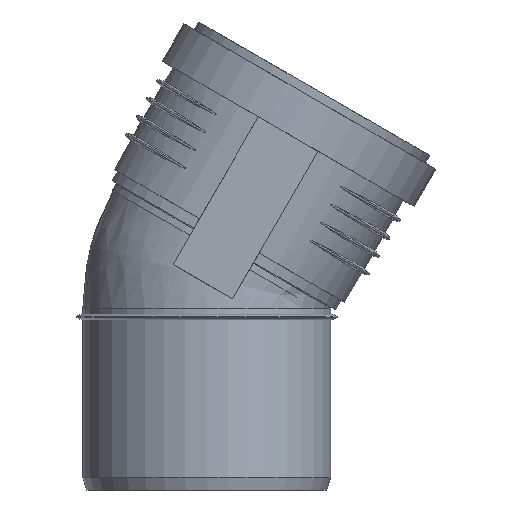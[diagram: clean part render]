
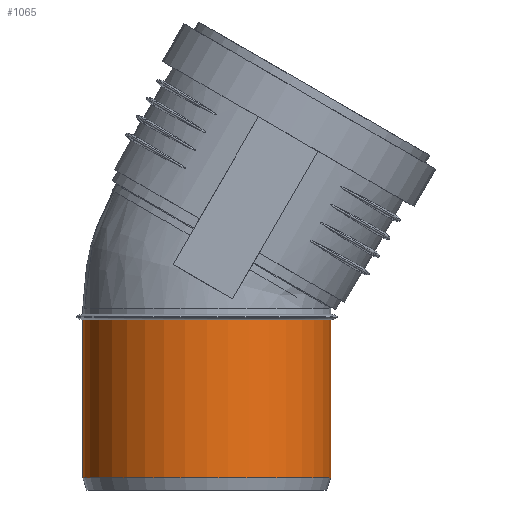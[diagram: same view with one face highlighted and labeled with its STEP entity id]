
A CAD part, front view. The second image highlights one B-rep face of the part: STEP entity #1065.
In plain terms, the highlighted cylindrical face has radius 45.1 mm (diameter 90.2 mm), a full revolution.
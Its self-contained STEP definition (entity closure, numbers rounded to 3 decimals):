
#190=CYLINDRICAL_SURFACE($,#1140,45.1);
#209=FACE_BOUND($,#314,.T.);
#252=FACE_OUTER_BOUND($,#313,.T.);
#313=EDGE_LOOP($,(#716));
#314=EDGE_LOOP($,(#717));
#414=CIRCLE($,#1138,45.1);
#416=CIRCLE($,#1141,45.1);
#469=VERTEX_POINT($,#1555);
#471=VERTEX_POINT($,#1560);
#575=EDGE_CURVE($,#469,#469,#414,.T.);
#577=EDGE_CURVE($,#471,#471,#416,.T.);
#716=ORIENTED_EDGE($,*,*,#577,.T.);
#717=ORIENTED_EDGE($,*,*,#575,.F.);
#1065=ADVANCED_FACE($,(#252,#209),#190,.T.);
#1138=AXIS2_PLACEMENT_3D($,#1556,#1267,#1268);
#1140=AXIS2_PLACEMENT_3D($,#1559,#1271,#1272);
#1141=AXIS2_PLACEMENT_3D($,#1561,#1273,#1274);
#1267=DIRECTION('center_axis',(0.,0.,-1.));
#1268=DIRECTION('ref_axis',(-1.,0.,0.));
#1271=DIRECTION('center_axis',(0.,0.,1.));
#1272=DIRECTION('ref_axis',(-1.,0.,0.));
#1273=DIRECTION('center_axis',(0.,0.,-1.));
#1274=DIRECTION('ref_axis',(-1.,0.,0.));
#1555=CARTESIAN_POINT('',(45.1,0.,4.5));
#1556=CARTESIAN_POINT('Origin',(0.,0.,4.5));
#1559=CARTESIAN_POINT('Origin',(0.,0.,0.));
#1560=CARTESIAN_POINT('',(-45.1,0.,62.));
#1561=CARTESIAN_POINT('Origin',(0.,0.,62.));
